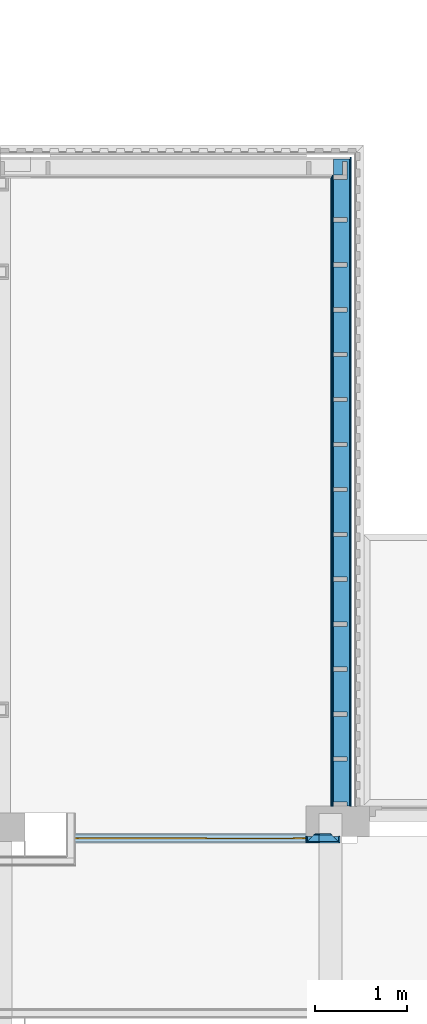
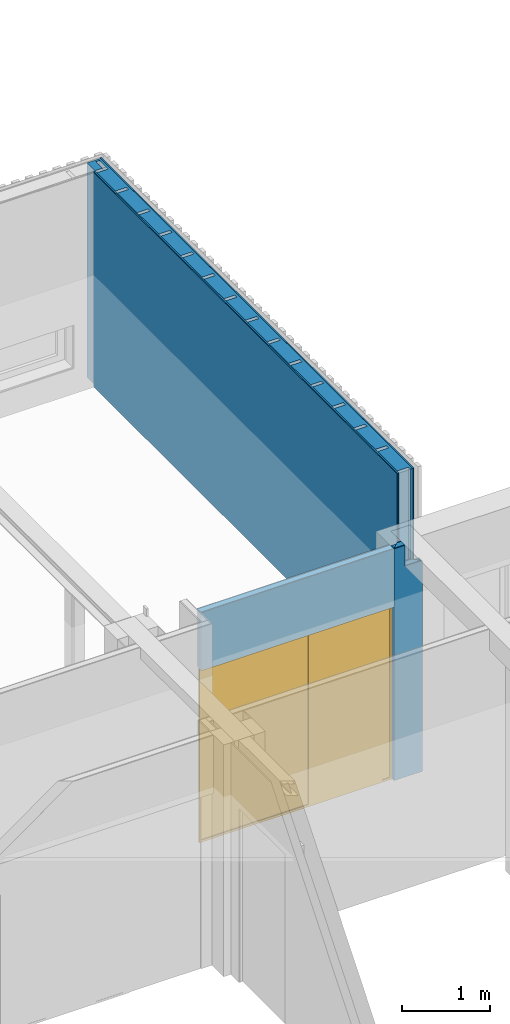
# One storey, part 70 of 99: 11 building element parts, 1 door, 1 opening, 5 elements without a shape of their own, plus 3 elements that do not belong to this part.
"""IFC2X3 building model written with IfcOpenShell, lengths in millimetres."""

from ifc_helpers import new_model, entity, si_unit, converted_unit, derived_unit, money_unit, direction, frame, origin_with_axes, place, context, subcontext, project, spatial, open_shell, faceted_brep, surface_model, material, type_object, element, fill, aggregate, save


model = new_model("IFC2X3")

# Units and contexts
model_context = context("Model", 3, precision=0.01, world=origin_with_axes(), true_north=direction((0.0, 1.0)))
body_context = subcontext(model_context, "Body", "Model", "MODEL_VIEW")
ifc_project = project(units=[si_unit("LENGTHUNIT", "METRE", prefix="MILLI"), si_unit("AREAUNIT", "SQUARE_METRE"), si_unit("VOLUMEUNIT", "CUBIC_METRE"), converted_unit("PLANEANGLEUNIT", "DEGREE", entity("IfcPlaneAngleMeasure", 0.0174532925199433), si_unit("PLANEANGLEUNIT", "RADIAN"), dimensions=[0, 0, 0, 0, 0, 0, 0]), money_unit("EUR"), converted_unit("TIMEUNIT", "Year", entity("IfcTimeMeasure", 31557600.0), si_unit("TIMEUNIT", "SECOND"), dimensions=[0, 0, 1, 0, 0, 0, 0]), si_unit("MASSUNIT", "GRAM", prefix="KILO"), si_unit("THERMODYNAMICTEMPERATUREUNIT", "DEGREE_CELSIUS"), si_unit("LUMINOUSINTENSITYUNIT", "LUMEN"), si_unit("ENERGYUNIT", "JOULE", prefix="MEGA"), derived_unit("THERMALCONDUCTANCEUNIT", [(si_unit("POWERUNIT", "WATT"), 1), (si_unit("LENGTHUNIT", "METRE"), -1), (si_unit("THERMODYNAMICTEMPERATUREUNIT", "KELVIN"), -1)]), derived_unit("SPECIFICHEATCAPACITYUNIT", [(si_unit("ENERGYUNIT", "JOULE"), 1), (si_unit("MASSUNIT", "GRAM", prefix="KILO"), -1), (si_unit("THERMODYNAMICTEMPERATUREUNIT", "KELVIN"), -1)]), derived_unit("MASSDENSITYUNIT", [(si_unit("MASSUNIT", "GRAM", prefix="KILO"), 1), (si_unit("VOLUMEUNIT", "CUBIC_METRE"), -1)])], contexts=[model_context])

# Site, building, storey
site_placement = place(None, origin_with_axes())
site = spatial("IfcSite", under=ifc_project, at=site_placement, Name="Site", CompositionType="ELEMENT")
building_placement = place(site_placement, origin_with_axes())
building = spatial("IfcBuilding", under=site, at=building_placement, Name="Naam gebouw", CompositionType="ELEMENT")
storey_placement = place(building_placement, frame((0.0, 0.0, 7650.0), z_axis=(0.0, 0.0, 1.0), x_axis=(1.0, 0.0, 0.0)))
storey = spatial("IfcBuildingStorey", under=building, at=storey_placement, Name="2e verdieping N", CompositionType="ELEMENT", Elevation=7650.0)

# Door
door_style = type_object("IfcDoorStyle", Name="D1 zl2 27", ConstructionType="NOTDEFINED", OperationType="USERDEFINED", ParameterTakesPrecedence=False, Sizeable=False)
wall_2_placement = place(storey_placement, frame((51215.00000000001, 20305.91242510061, 0.0), z_axis=(0.0, 0.0, 1.0), x_axis=(1.0, 0.0, 0.0)))
opening_placement = place(wall_2_placement, frame((1257.499999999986, 0.0, 0.0), z_axis=(0.0, 0.0, 1.0), x_axis=(1.0, 0.0, 0.0)))
door_placement = place(opening_placement, frame((-1257.499999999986, 0.0, 0.0), z_axis=(0.0, 0.0, 1.0), x_axis=(1.0, 0.0, 0.0)))
door = element("IfcDoor", 1, at=door_placement, inside=storey, type_object=door_style, Name="_Merk-x", ObjectType="DOOR", OverallHeight=2400.0, OverallWidth=2515.0, context=body_context, shape_type="SurfaceModel", body=[
    faceted_brep([(0.0, 9.99999999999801, 0.0), (30.00000000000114, 9.99999999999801, 0.0), (30.00000000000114, -10.00000000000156, 0.0), (0.0, -10.00000000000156, 0.0), (0.0, 9.99999999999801, 2369.999999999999), (30.00000000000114, 9.99999999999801, 2369.999999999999), (30.00000000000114, 9.99999999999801, 30.00000000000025), (30.00000000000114, -10.00000000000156, 30.00000000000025), (30.00000000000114, -10.00000000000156, 2369.999999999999), (0.0, -10.00000000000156, 2369.999999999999)], [[[0, 1, 2, 3]], [[0, 4, 5, 6, 1]], [[1, 6, 7, 2]], [[3, 2, 7, 8, 9]], [[4, 0, 3, 9]], [[5, 4, 9, 8]], [[6, 5, 8, 7]]]),
    faceted_brep([(1454.99999999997, -9.000000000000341, 0.0), (1454.99999999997, -9.000000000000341, 2369.999999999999), (1454.99999999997, -10.00000000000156, 2369.999999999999), (1454.99999999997, -10.00000000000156, 0.0), (1437.999999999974, -9.000000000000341, 2369.999999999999), (1437.999999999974, -9.000000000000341, 0.0), (1437.999999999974, 9.99999999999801, 2369.999999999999), (1424.999999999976, 9.99999999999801, 2369.999999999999), (1424.999999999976, -10.00000000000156, 2369.999999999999), (1424.999999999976, -10.00000000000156, 0.0), (1424.999999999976, -10.00000000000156, 30.00000000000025), (1424.999999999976, 9.99999999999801, 0.0), (1437.999999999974, 9.99999999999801, 0.0), (1424.999999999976, 9.99999999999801, 30.00000000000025)], [[[0, 1, 2, 3]], [[4, 1, 0, 5]], [[4, 6, 7, 8, 2, 1]], [[9, 3, 2, 8, 10]], [[5, 0, 3, 9, 11, 12]], [[6, 4, 5, 12]], [[6, 12, 11, 13, 7]], [[13, 10, 8, 7]], [[11, 9, 10, 13]]]),
    faceted_brep([(30.00000000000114, 9.99999999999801, 30.00000000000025), (30.00000000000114, 9.99999999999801, 0.0), (30.00000000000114, -10.00000000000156, 0.0), (30.00000000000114, -10.00000000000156, 30.00000000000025), (1424.999999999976, 9.99999999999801, 30.00000000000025), (1424.999999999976, 9.99999999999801, 0.0), (1424.999999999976, -10.00000000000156, 0.0), (1424.999999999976, -10.00000000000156, 30.00000000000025)], [[[0, 1, 2, 3]], [[0, 4, 5, 1]], [[1, 5, 6, 2]], [[3, 2, 6, 7]], [[4, 0, 3, 7]], [[5, 4, 7, 6]]]),
    faceted_brep([(2514.999999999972, 9.99999999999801, 0.0), (2514.999999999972, 9.99999999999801, 2369.999999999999), (2514.999999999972, -10.00000000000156, 2369.999999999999), (2514.999999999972, -10.00000000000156, 0.0), (2484.999999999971, 9.99999999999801, 0.0), (2484.999999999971, 9.99999999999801, 30.00000000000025), (2484.999999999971, 9.99999999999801, 2369.999999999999), (2484.999999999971, -10.00000000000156, 2369.999999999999), (2484.999999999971, -10.00000000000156, 30.00000000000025), (2484.999999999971, -10.00000000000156, 0.0)], [[[0, 1, 2, 3]], [[0, 4, 5, 6, 1]], [[1, 6, 7, 2]], [[3, 2, 7, 8, 9]], [[4, 0, 3, 9]], [[5, 4, 9, 8]], [[6, 5, 8, 7]]]),
    faceted_brep([(2371.999999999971, -9.000000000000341, 2369.999999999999), (2354.999999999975, -9.000000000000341, 2369.999999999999), (2354.999999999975, -10.00000000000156, 2369.999999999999), (2384.99999999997, -10.00000000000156, 2369.999999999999), (2384.99999999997, 9.99999999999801, 2369.999999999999), (2371.999999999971, 9.99999999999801, 2369.999999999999), (2371.999999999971, -9.000000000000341, 0.0), (2354.999999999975, -9.000000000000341, 0.0), (2354.999999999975, -10.00000000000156, 0.0), (2384.99999999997, -10.00000000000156, 0.0), (2384.99999999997, -10.00000000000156, 30.00000000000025), (2384.99999999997, 9.99999999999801, 30.00000000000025), (2371.999999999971, 9.99999999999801, 0.0), (2384.99999999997, 9.99999999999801, 0.0)], [[[0, 1, 2, 3, 4, 5]], [[1, 0, 6, 7]], [[1, 7, 8, 2]], [[8, 9, 10, 3, 2]], [[4, 3, 10, 11]], [[12, 5, 4, 11, 13]], [[0, 5, 12, 6]], [[6, 12, 13, 9, 8, 7]], [[11, 10, 9, 13]]]),
    faceted_brep([(2384.99999999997, 9.99999999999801, 30.00000000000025), (2384.99999999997, 9.99999999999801, 0.0), (2384.99999999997, -10.00000000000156, 0.0), (2384.99999999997, -10.00000000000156, 30.00000000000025), (2484.999999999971, 9.99999999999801, 30.00000000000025), (2484.999999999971, 9.99999999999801, 0.0), (2484.999999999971, -10.00000000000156, 0.0), (2484.999999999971, -10.00000000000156, 30.00000000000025)], [[[0, 1, 2, 3]], [[0, 4, 5, 1]], [[1, 5, 6, 2]], [[3, 2, 6, 7]], [[4, 0, 3, 7]], [[5, 4, 7, 6]]]),
    faceted_brep([(1437.999999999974, 9.99999999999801, 2387.0), (1437.999999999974, 9.99999999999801, 2369.999999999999), (1424.999999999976, 9.99999999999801, 2369.999999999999), (30.00000000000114, 9.99999999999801, 2369.999999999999), (0.0, 9.99999999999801, 2369.999999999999), (0.0, 9.99999999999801, 2400.0), (2514.999999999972, 9.99999999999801, 2400.0), (2514.999999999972, 9.99999999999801, 2369.999999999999), (2484.999999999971, 9.99999999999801, 2369.999999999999), (2384.99999999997, 9.99999999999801, 2369.999999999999), (2371.999999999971, 9.99999999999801, 2369.999999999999), (2371.999999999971, 9.99999999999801, 2387.0), (1437.999999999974, -9.000000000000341, 2387.0), (1437.999999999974, -9.000000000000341, 2369.999999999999), (2354.999999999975, -9.000000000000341, 2369.999999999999), (2354.999999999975, -10.00000000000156, 2369.999999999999), (1454.99999999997, -10.00000000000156, 2369.999999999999), (1424.999999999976, -10.00000000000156, 2369.999999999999), (30.00000000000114, -10.00000000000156, 2369.999999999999), (0.0, -10.00000000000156, 2369.999999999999), (0.0, -10.00000000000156, 2400.0), (2514.999999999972, -10.00000000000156, 2400.0), (2514.999999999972, -10.00000000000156, 2369.999999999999), (2484.999999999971, -10.00000000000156, 2369.999999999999), (2371.999999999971, -9.000000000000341, 2369.999999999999), (2384.99999999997, -10.00000000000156, 2369.999999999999), (2371.999999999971, -9.000000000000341, 2387.0)], [[[0, 1, 2, 3, 4, 5, 6, 7, 8, 9, 10, 11]], [[1, 0, 12, 13]], [[13, 14, 15, 16, 17, 2, 1]], [[2, 17, 18, 3]], [[3, 18, 19, 4]], [[4, 19, 20, 5]], [[5, 20, 21, 6]], [[6, 21, 22, 7]], [[7, 22, 23, 8]], [[24, 10, 9, 8, 23, 25, 15, 14]], [[11, 10, 24, 26]], [[0, 11, 26, 12]], [[24, 14, 13, 12, 26]], [[23, 22, 21, 20, 19, 18, 17, 16, 15, 25]]]),
    faceted_brep([(2371.999999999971, 0.9999999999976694, 0.0), (2371.999999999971, -9.000000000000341, 0.0), (1437.999999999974, -9.000000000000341, 0.0), (1437.999999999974, 0.9999999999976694, 0.0), (2371.999999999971, 0.9999999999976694, 2387.0), (2371.999999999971, -9.000000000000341, 2387.0), (1437.999999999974, -9.000000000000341, 2387.0), (1437.999999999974, 0.9999999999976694, 2387.0)], [[[0, 1, 2, 3]], [[4, 5, 1, 0]], [[1, 5, 6, 2]], [[3, 2, 6, 7]], [[0, 3, 7, 4]], [[7, 6, 5, 4]]]),
    surface_model("IfcShellBasedSurfaceModel", [(30.00000000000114, 8.999999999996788, 30.00000000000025), (30.00000000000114, 8.999999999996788, 2369.999999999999), (1424.999999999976, 8.999999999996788, 2369.999999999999), (1424.999999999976, 8.999999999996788, 30.00000000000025)], [open_shell([[[0, 1, 2, 3]]])]),
    surface_model("IfcShellBasedSurfaceModel", [(30.00000000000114, 0.9999999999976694, 30.00000000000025), (1424.999999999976, 0.9999999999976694, 30.00000000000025), (1424.999999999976, 0.9999999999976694, 2369.999999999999), (30.00000000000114, 0.9999999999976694, 2369.999999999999)], [open_shell([[[0, 1, 2, 3]]])]),
    surface_model("IfcShellBasedSurfaceModel", [(2384.99999999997, 8.999999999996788, 30.00000000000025), (2384.99999999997, 8.999999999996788, 2369.999999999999), (2484.999999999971, 8.999999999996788, 2369.999999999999), (2484.999999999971, 8.999999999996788, 30.00000000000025)], [open_shell([[[0, 1, 2, 3]]])]),
    surface_model("IfcShellBasedSurfaceModel", [(2384.99999999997, 0.9999999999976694, 30.00000000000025), (2484.999999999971, 0.9999999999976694, 30.00000000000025), (2484.999999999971, 0.9999999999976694, 2369.999999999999), (2384.99999999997, 0.9999999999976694, 2369.999999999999)], [open_shell([[[0, 1, 2, 3]]])]),
])

# Wall, building element parts
wall_type_1 = type_object("IfcWallType", Name="Metalstud iso 100 100", PredefinedType="NOTDEFINED")
wall_1_placement = place(storey_placement, frame((53729.99999999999, 20255.91242510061, 0.0), z_axis=(0.0, 0.0, 1.0), x_axis=(0.0, 1.0, 0.0)))
wall_1 = element("IfcWall", 2, at=wall_1_placement, inside=storey, type_object=wall_type_1, Name="_Wand-x")
ifc_material_1 = material(Name="Gipsplaat")
building_element_part_1_placement = place(wall_1_placement, origin_with_axes())
building_element_part_1 = element("IfcBuildingElementPart", 3, at=building_element_part_1_placement, material=ifc_material_1, Name="Gipsplaat", context=body_context, shape_type="Brep", body=[
    faceted_brep([(0.0, 0.0, 3199.999999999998), (69.99999999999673, 0.0, 3199.999999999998), (69.99999999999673, 0.0, 0.0), (0.0, 0.0, 0.0), (12.5000119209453, -12.50001192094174, 3199.999999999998), (69.99999999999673, -12.50000000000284, 3199.999999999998), (69.99999999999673, -12.50000000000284, 0.0), (12.5000119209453, -12.50001192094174, 0.0)], [[[0, 1, 2, 3]], [[1, 0, 4, 5]], [[1, 5, 6, 2]], [[7, 3, 2, 6]], [[4, 0, 3, 7]], [[5, 4, 7, 6]]]),
])
ifc_material_2 = material(Name="Isolatie - Steenwol LSW")
building_element_part_2_placement = place(wall_1_placement, origin_with_axes())
building_element_part_2 = element("IfcBuildingElementPart", 4, at=building_element_part_2_placement, material=ifc_material_2, Name="Isolatie - Steenwol LSW", context=body_context, shape_type="Brep", body=[
    faceted_brep([(12.5000119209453, -12.50001192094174, 3199.999999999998), (69.99999999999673, -69.99999999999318, 3199.999999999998), (69.99999999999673, -12.50000000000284, 3199.999999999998), (69.99999999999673, -69.99999999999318, 0.0), (12.5000119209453, -12.50001192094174, 0.0), (69.99999999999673, -12.50000000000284, 0.0)], [[[0, 1, 2]], [[3, 1, 0, 4]], [[1, 3, 5, 2]], [[4, 0, 2, 5]], [[3, 4, 5]]]),
])
aggregate(wall_1, [building_element_part_1, building_element_part_2])

# Wall, opening
wall_2 = element("IfcWall", 5, at=wall_2_placement, inside=storey, type_object=wall_type_1, Name="_Wand-x")
opening = element("IfcOpeningElement", 6, at=opening_placement, cuts=wall_2, Name="_Merk-x", context=body_context, shape_type="Brep", body=[
    faceted_brep([(1257.499999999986, -10.00000000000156, 0.0), (1257.499999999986, -10.00000000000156, 2400.0), (1257.499999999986, -51.00000000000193, 2400.0), (1257.499999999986, -51.00000000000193, 0.0), (1257.499999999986, 51.00000000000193, 0.0), (1257.499999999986, 51.00000000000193, 2400.0), (-1257.499999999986, -10.00000000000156, 2400.0), (-1257.499999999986, -51.00000000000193, 2400.0), (-1257.499999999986, 51.00000000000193, 2400.0), (-1257.499999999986, -51.00000000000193, 0.0), (-1257.499999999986, -10.00000000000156, 0.0), (-1257.499999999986, 51.00000000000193, 0.0)], [[[0, 1, 2, 3]], [[1, 0, 4, 5]], [[6, 7, 2, 1, 5, 8]], [[7, 9, 3, 2]], [[0, 3, 9, 10, 11, 4]], [[5, 4, 11, 8]], [[6, 10, 9, 7]], [[10, 6, 8, 11]]]),
])

fill(opening, door)

# Building element part
building_element_part_3_placement = place(wall_2_placement, origin_with_axes())
building_element_part_3 = element("IfcBuildingElementPart", 7, at=building_element_part_3_placement, material=ifc_material_1, Name="Gipsplaat", context=body_context, shape_type="Brep", body=[
    faceted_brep([(2514.999999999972, 37.50000000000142, 2400.0), (2514.999999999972, 50.00000000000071, 2400.0), (2514.999999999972, 50.00000000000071, 3199.999999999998), (2514.999999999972, 37.50000000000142, 3199.999999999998), (0.0, 50.00000000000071, 2400.0), (0.0, 37.50000000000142, 2400.0), (0.0, 50.00000000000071, 3199.999999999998), (0.0, 37.50000000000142, 3199.999999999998)], [[[0, 1, 2, 3]], [[4, 1, 0, 5]], [[1, 4, 6, 2]], [[6, 7, 3, 2]], [[5, 0, 3, 7]], [[4, 5, 7, 6]]]),
])

building_element_part_4_placement = place(wall_2_placement, origin_with_axes())
building_element_part_4 = element("IfcBuildingElementPart", 8, at=building_element_part_4_placement, material=ifc_material_1, Name="Gipsplaat", context=body_context, shape_type="Brep", body=[
    faceted_brep([(2514.999999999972, -50.00000000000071, 2400.0), (2514.999999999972, -37.49999999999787, 2400.0), (2514.999999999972, -37.49999999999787, 3199.999999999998), (2514.999999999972, -50.00000000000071, 3199.999999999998), (0.0, -37.50000000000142, 2400.0), (0.0, -50.00000000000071, 2400.0), (0.0, -37.50000000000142, 3199.999999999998), (0.0, -50.00000000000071, 3199.999999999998)], [[[0, 1, 2, 3]], [[4, 1, 0, 5]], [[1, 4, 6, 2]], [[6, 7, 3, 2]], [[5, 0, 3, 7]], [[4, 5, 7, 6]]]),
])

building_element_part_5_placement = place(wall_2_placement, origin_with_axes())
building_element_part_5 = element("IfcBuildingElementPart", 9, at=building_element_part_5_placement, material=ifc_material_2, Name="Isolatie - Steenwol LSW", context=body_context, shape_type="Brep", body=[
    faceted_brep([(2514.999999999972, -10.00000000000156, 2400.0), (2514.999999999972, 37.50000000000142, 2400.0), (2514.999999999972, 37.50000000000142, 3199.999999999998), (2514.999999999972, -37.49999999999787, 3199.999999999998), (2514.999999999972, -37.49999999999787, 2400.0), (0.0, -10.00000000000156, 2400.0), (0.0, 37.50000000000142, 2400.0), (0.0, -37.50000000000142, 2400.0), (0.0, 37.50000000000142, 3199.999999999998), (0.0, -37.50000000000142, 3199.999999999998)], [[[0, 1, 2, 3, 4]], [[5, 6, 1, 0, 4, 7]], [[1, 6, 8, 2]], [[9, 3, 2, 8]], [[4, 3, 9, 7]], [[6, 5, 7, 9, 8]]]),
])

aggregate(wall_2, [building_element_part_3, building_element_part_4, building_element_part_5])

# Wall, building element parts
wall_3_placement = place(storey_placement, frame((53729.99999999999, 20255.91242510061, 0.0), z_axis=(0.0, 0.0, 1.0), x_axis=(1.0, 0.0, 0.0)))
wall_3 = element("IfcWall", 10, at=wall_3_placement, inside=storey, type_object=wall_type_1, Name="_Wand-x")
building_element_part_6_placement = place(wall_3_placement, origin_with_axes())
building_element_part_6 = element("IfcBuildingElementPart", 11, at=building_element_part_6_placement, material=ifc_material_2, Name="Isolatie - Steenwol LSW", context=body_context, shape_type="Brep", body=[
    faceted_brep([(282.5000119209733, 87.49998807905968, 2909.997805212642), (357.4999880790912, 12.50001192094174, 2909.997805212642), (357.4999880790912, 12.50001192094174, 0.0), (282.5000119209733, 87.49998807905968, 0.0), (145.0000000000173, 12.50001192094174, 2909.997805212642), (145.0000000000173, 87.49998807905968, 2909.997805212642), (145.0000000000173, 12.50001192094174, 3199.999999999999), (12.50001192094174, 12.50001192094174, 3199.999999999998), (12.50001192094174, 12.50001192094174, 0.0), (87.49998807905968, 87.49998807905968, 0.0), (87.49998807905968, 87.49998807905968, 3199.999999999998), (145.0000000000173, 87.49998807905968, 3199.999999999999)], [[[0, 1, 2, 3]], [[4, 1, 0, 5]], [[4, 6, 7, 8, 2, 1]], [[2, 8, 9, 3]], [[5, 0, 3, 9, 10, 11]], [[5, 11, 6, 4]], [[6, 11, 10, 7]], [[8, 7, 10, 9]]]),
])
building_element_part_7_placement = place(wall_3_placement, origin_with_axes())
building_element_part_7 = element("IfcBuildingElementPart", 12, at=building_element_part_7_placement, material=ifc_material_1, Name="Gipsplaat", context=body_context, shape_type="Brep", body=[
    faceted_brep([(357.4999880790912, 12.50001192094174, 2909.997805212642), (370.0000000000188, 0.0, 2909.997805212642), (370.0000000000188, 0.0, 0.0), (357.4999880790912, 12.50001192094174, 0.0), (145.0000000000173, 0.0, 2909.997805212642), (145.0000000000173, 12.50001192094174, 2909.997805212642), (145.0000000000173, 0.0, 3199.999999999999), (0.0, 0.0, 3199.999999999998), (0.0, 0.0, 0.0), (12.50001192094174, 12.50001192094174, 0.0), (12.50001192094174, 12.50001192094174, 3199.999999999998), (145.0000000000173, 12.50001192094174, 3199.999999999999)], [[[0, 1, 2, 3]], [[4, 1, 0, 5]], [[4, 6, 7, 8, 2, 1]], [[8, 9, 3, 2]], [[5, 0, 3, 9, 10, 11]], [[5, 11, 6, 4]], [[6, 11, 10, 7]], [[8, 7, 10, 9]]]),
])
building_element_part_8_placement = place(wall_3_placement, origin_with_axes())
building_element_part_8 = element("IfcBuildingElementPart", 13, at=building_element_part_8_placement, material=ifc_material_1, Name="Gipsplaat", context=body_context, shape_type="Brep", body=[
    faceted_brep([(270.0000000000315, 100.0000000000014, 2909.997805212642), (282.5000119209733, 87.49998807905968, 2909.997805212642), (282.5000119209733, 87.49998807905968, 0.0), (270.0000000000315, 100.0000000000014, 0.0), (145.0000000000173, 87.49998807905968, 2909.997805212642), (145.0000000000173, 100.0000000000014, 2909.997805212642), (145.0000000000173, 87.49998807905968, 3199.999999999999), (87.49998807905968, 87.49998807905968, 3199.999999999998), (87.49998807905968, 87.49998807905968, 0.0), (100.0000000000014, 100.0000000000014, 0.0), (100.0000000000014, 100.0000000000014, 3199.999999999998), (145.0000000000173, 100.0000000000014, 3199.999999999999)], [[[0, 1, 2, 3]], [[4, 1, 0, 5]], [[4, 6, 7, 8, 2, 1]], [[2, 8, 9, 3]], [[5, 0, 3, 9, 10, 11]], [[5, 11, 6, 4]], [[6, 11, 10, 7]], [[8, 7, 10, 9]]]),
])
aggregate(wall_3, [building_element_part_6, building_element_part_7, building_element_part_8])

wall_4_placement = place(storey_placement, frame((54100.0, 20255.91242510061, 0.0), z_axis=(0.0, 0.0, 1.0), x_axis=(0.0, 1.0, 0.0)))
wall_4 = element("IfcWall", 14, at=wall_4_placement, inside=storey, type_object=wall_type_1, Name="_Wand-x")
building_element_part_9_placement = place(wall_4_placement, origin_with_axes())
building_element_part_9 = element("IfcBuildingElementPart", 15, at=building_element_part_9_placement, material=ifc_material_2, Name="Isolatie - Steenwol LSW", context=body_context, shape_type="Brep", body=[
    faceted_brep([(69.99999999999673, 69.99999999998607, 2909.997805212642), (69.99999999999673, 12.50000000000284, 2909.997805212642), (69.99999999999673, 12.50000000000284, 0.0), (70.00000000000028, 69.99999999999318, 0.0), (12.50001192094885, 12.50001192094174, 2909.997805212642), (12.50001192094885, 12.50001192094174, 0.0)], [[[0, 1, 2, 3]], [[4, 1, 0]], [[1, 4, 5, 2]], [[2, 5, 3]], [[4, 0, 3, 5]]]),
])
building_element_part_10_placement = place(wall_4_placement, origin_with_axes())
building_element_part_10 = element("IfcBuildingElementPart", 16, at=building_element_part_10_placement, material=ifc_material_1, Name="Gipsplaat", context=body_context, shape_type="Brep", body=[
    faceted_brep([(69.99999999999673, 12.50000000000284, 2909.997805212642), (69.99999999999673, 0.0, 2909.997805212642), (69.99999999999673, 0.0, 0.0), (69.99999999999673, 12.50000000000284, 0.0), (0.0, 0.0, 2909.997805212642), (12.50001192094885, 12.50001192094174, 2909.997805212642), (0.0, 0.0, 0.0), (12.50001192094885, 12.50001192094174, 0.0)], [[[0, 1, 2, 3]], [[4, 1, 0, 5]], [[1, 4, 6, 2]], [[6, 7, 3, 2]], [[5, 0, 3, 7]], [[4, 5, 7, 6]]]),
])
aggregate(wall_4, [building_element_part_9, building_element_part_10])

wall_type_2 = type_object("IfcWallType", Name="Gevel decowall-hsb 278", PredefinedType="NOTDEFINED")
wall_5_placement = place(storey_placement, frame((53999.99999999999, 20656.0124251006, 939.9999999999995), z_axis=(0.0, 0.0, 1.0), x_axis=(0.0, 1.0, 0.0)))
wall_5 = element("IfcWall", 17, at=wall_5_placement, inside=storey, type_object=wall_type_2, Name="_Wand-x")
building_element_part_11_placement = place(wall_5_placement, origin_with_axes())
building_element_part_11 = element("IfcBuildingElementPart", 18, at=building_element_part_11_placement, material=ifc_material_1, Name="Gipsplaat", context=body_context, shape_type="Brep", body=[
    faceted_brep([(0.0, 0.0, 0.0), (6861.899999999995, 0.0, 0.0), (6861.899999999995, -11.99999999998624, 0.0), (0.0, -12.00000000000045, 0.0), (0.0, 0.0, 2960.000000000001), (6861.899999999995, 0.0, 2960.000000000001), (6861.899999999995, -11.99999999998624, 2960.000000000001), (0.0, -12.00000000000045, 2960.000000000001)], [[[0, 1, 2, 3]], [[4, 5, 1, 0]], [[6, 2, 1, 5]], [[3, 2, 6, 7]], [[7, 4, 0, 3]], [[7, 6, 5, 4]]]),
])
ifc_material_3 = material(Name="Hout - Multiplex")
building_element_part_12_placement = place(wall_5_placement, origin_with_axes())
building_element_part_12 = element("IfcBuildingElementPart", 19, at=building_element_part_12_placement, material=ifc_material_3, Name="Hout - Multiplex", context=body_context, shape_type="Brep", body=[
    faceted_brep([(0.0, -12.00000000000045, 0.0), (6879.899999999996, -11.99999999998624, 0.0), (6879.899999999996, -29.99999999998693, 0.0), (0.0, -30.00000000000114, 0.0), (0.0, -12.00000000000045, 2960.000000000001), (6879.899999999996, -11.99999999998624, 2960.000000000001), (6879.899999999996, -29.99999999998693, 2960.000000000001), (0.0, -30.00000000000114, 2960.000000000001)], [[[0, 1, 2, 3]], [[4, 5, 1, 0]], [[6, 2, 1, 5]], [[3, 2, 6, 7]], [[7, 4, 0, 3]], [[7, 6, 5, 4]]]),
])
ifc_material_4 = material(Name="Isolatie - Steenwol zacht")
building_element_part_13_placement = place(wall_5_placement, origin_with_axes())
building_element_part_13 = element("IfcBuildingElementPart", 20, at=building_element_part_13_placement, material=ifc_material_4, Name="Isolatie - Steenwol zacht", context=body_context, shape_type="Brep", body=[
    faceted_brep([(6879.9, -129.9999999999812, 2960.000000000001), (7025.9, -129.9999999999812, 2960.000000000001), (7025.9, -175.9999999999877, 2960.000000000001), (6833.9, -175.9999999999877, 2960.000000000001), (6833.9, -29.99999999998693, 2960.000000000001), (6416.0, -29.99999999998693, 2960.000000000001), (6416.0, -175.9999999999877, 2960.000000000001), (6370.000000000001, -175.9999999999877, 2960.000000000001), (6370.000000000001, -29.99999999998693, 2960.000000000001), (5925.999999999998, -29.99999999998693, 2960.000000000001), (5925.999999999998, -175.9999999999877, 2960.000000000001), (5879.999999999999, -175.9999999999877, 2960.000000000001), (5879.999999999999, -29.99999999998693, 2960.000000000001), (5436.0, -29.99999999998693, 2960.000000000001), (5436.0, -175.9999999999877, 2960.000000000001), (5390.000000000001, -175.9999999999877, 2960.000000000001), (5390.000000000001, -29.99999999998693, 2960.000000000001), (4946.000000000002, -29.99999999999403, 2960.000000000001), (4946.000000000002, -175.9999999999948, 2960.000000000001), (4900.000000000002, -175.9999999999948, 2960.000000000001), (4900.000000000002, -29.99999999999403, 2960.000000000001), (4455.999999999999, -29.99999999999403, 2960.000000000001), (4455.999999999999, -175.9999999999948, 2960.000000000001), (4410.0, -175.9999999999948, 2960.000000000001), (4410.0, -29.99999999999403, 2960.000000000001), (3965.999999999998, -29.99999999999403, 2960.000000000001), (3965.999999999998, -175.9999999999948, 2960.000000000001), (3919.999999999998, -175.9999999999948, 2960.000000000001), (3919.999999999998, -29.99999999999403, 2960.000000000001), (3475.999999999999, -29.99999999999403, 2960.000000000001), (3475.999999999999, -175.9999999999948, 2960.000000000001), (3430.0, -175.9999999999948, 2960.000000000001), (3430.0, -29.99999999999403, 2960.000000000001), (2986.0, -29.99999999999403, 2960.000000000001), (2986.0, -175.9999999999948, 2960.000000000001), (2940.000000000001, -175.9999999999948, 2960.000000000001), (2940.000000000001, -29.99999999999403, 2960.000000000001), (2495.999999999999, -29.99999999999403, 2960.000000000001), (2495.999999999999, -175.9999999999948, 2960.000000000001), (2449.999999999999, -175.9999999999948, 2960.000000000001), (2449.999999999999, -29.99999999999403, 2960.000000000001), (2006.0, -29.99999999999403, 2960.000000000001), (2006.0, -175.9999999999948, 2960.000000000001), (1960.000000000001, -175.9999999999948, 2960.000000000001), (1960.000000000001, -29.99999999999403, 2960.000000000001), (1515.999999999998, -30.00000000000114, 2960.000000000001), (1515.999999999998, -176.0000000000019, 2960.000000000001), (1469.999999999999, -176.0000000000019, 2960.000000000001), (1469.999999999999, -30.00000000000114, 2960.000000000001), (1026.0, -30.00000000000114, 2960.000000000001), (1026.0, -176.0000000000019, 2960.000000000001), (980.0000000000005, -176.0000000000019, 2960.000000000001), (980.0000000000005, -30.00000000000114, 2960.000000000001), (535.9999999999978, -30.00000000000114, 2960.000000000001), (535.9999999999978, -176.0000000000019, 2960.000000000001), (489.9999999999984, -176.0000000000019, 2960.000000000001), (489.9999999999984, -30.00000000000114, 2960.000000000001), (45.99999999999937, -30.00000000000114, 2960.000000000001), (45.99999999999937, -176.0000000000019, 2960.000000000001), (0.0, -176.0000000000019, 2960.000000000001), (0.0, -207.9999999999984, 2960.000000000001), (7057.899999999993, -207.9999999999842, 2960.000000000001), (7057.899999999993, -29.99999999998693, 2960.000000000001), (6879.9, -29.99999999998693, 2960.000000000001), (6879.9, -129.9999999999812, 0.0), (7025.9, -129.9999999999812, 0.0), (7025.9, -175.9999999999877, 0.0), (6833.9, -175.9999999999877, 0.0), (6833.9, -29.99999999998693, 0.0), (6416.0, -29.99999999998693, 0.0), (6416.0, -175.9999999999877, 0.0), (6370.000000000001, -175.9999999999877, 0.0), (6370.000000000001, -29.99999999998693, 0.0), (5925.999999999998, -29.99999999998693, 0.0), (5925.999999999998, -175.9999999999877, 0.0), (5879.999999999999, -175.9999999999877, 0.0), (5879.999999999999, -29.99999999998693, 0.0), (5436.0, -29.99999999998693, 0.0), (5436.0, -175.9999999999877, 0.0), (5390.000000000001, -175.9999999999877, 0.0), (5390.000000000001, -29.99999999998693, 0.0), (4946.000000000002, -29.99999999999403, 0.0), (4946.000000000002, -175.9999999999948, 0.0), (4900.000000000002, -175.9999999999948, 0.0), (4900.000000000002, -29.99999999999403, 0.0), (4455.999999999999, -29.99999999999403, 0.0), (4455.999999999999, -175.9999999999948, 0.0), (4410.0, -175.9999999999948, 0.0), (4410.0, -29.99999999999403, 0.0), (3965.999999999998, -29.99999999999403, 0.0), (3965.999999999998, -175.9999999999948, 0.0), (3919.999999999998, -175.9999999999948, 0.0), (3919.999999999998, -29.99999999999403, 0.0), (3475.999999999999, -29.99999999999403, 0.0), (3475.999999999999, -175.9999999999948, 0.0), (3430.0, -175.9999999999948, 0.0), (3430.0, -29.99999999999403, 0.0), (2986.0, -29.99999999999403, 0.0), (2986.0, -175.9999999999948, 0.0), (2940.000000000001, -175.9999999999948, 0.0), (2940.000000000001, -29.99999999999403, 0.0), (2495.999999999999, -29.99999999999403, 0.0), (2495.999999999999, -175.9999999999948, 0.0), (2449.999999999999, -175.9999999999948, 0.0), (2449.999999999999, -29.99999999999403, 0.0), (2006.0, -29.99999999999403, 0.0), (2006.0, -175.9999999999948, 0.0), (1960.000000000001, -175.9999999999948, 0.0), (1960.000000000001, -29.99999999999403, 0.0), (1515.999999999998, -30.00000000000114, 0.0), (1515.999999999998, -176.0000000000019, 0.0), (1469.999999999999, -176.0000000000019, 0.0), (1469.999999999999, -30.00000000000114, 0.0), (1026.0, -30.00000000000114, 0.0), (1026.0, -176.0000000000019, 0.0), (980.0000000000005, -176.0000000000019, 0.0), (980.0000000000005, -30.00000000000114, 0.0), (535.9999999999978, -30.00000000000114, 0.0), (535.9999999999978, -176.0000000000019, 0.0), (489.9999999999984, -176.0000000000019, 0.0), (489.9999999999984, -30.00000000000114, 0.0), (45.99999999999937, -30.00000000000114, 0.0), (45.99999999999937, -176.0000000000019, 0.0), (0.0, -176.0000000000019, 0.0), (0.0, -207.9999999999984, 0.0), (7057.899999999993, -207.9999999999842, 0.0), (7057.899999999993, -29.99999999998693, 0.0), (6879.9, -29.99999999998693, 0.0)], [[[0, 1, 2, 3, 4, 5, 6, 7, 8, 9, 10, 11, 12, 13, 14, 15, 16, 17, 18, 19, 20, 21, 22, 23, 24, 25, 26, 27, 28, 29, 30, 31, 32, 33, 34, 35, 36, 37, 38, 39, 40, 41, 42, 43, 44, 45, 46, 47, 48, 49, 50, 51, 52, 53, 54, 55, 56, 57, 58, 59, 60, 61, 62, 63]], [[1, 0, 64, 65]], [[2, 1, 65, 66]], [[2, 66, 67, 3]], [[4, 3, 67, 68]], [[69, 5, 4, 68]], [[6, 5, 69, 70]], [[7, 6, 70, 71]], [[8, 7, 71, 72]], [[73, 9, 8, 72]], [[10, 9, 73, 74]], [[11, 10, 74, 75]], [[12, 11, 75, 76]], [[77, 13, 12, 76]], [[14, 13, 77, 78]], [[15, 14, 78, 79]], [[16, 15, 79, 80]], [[81, 17, 16, 80]], [[18, 17, 81, 82]], [[19, 18, 82, 83]], [[20, 19, 83, 84]], [[85, 21, 20, 84]], [[22, 21, 85, 86]], [[23, 22, 86, 87]], [[24, 23, 87, 88]], [[89, 25, 24, 88]], [[26, 25, 89, 90]], [[27, 26, 90, 91]], [[28, 27, 91, 92]], [[93, 29, 28, 92]], [[30, 29, 93, 94]], [[31, 30, 94, 95]], [[32, 31, 95, 96]], [[97, 33, 32, 96]], [[34, 33, 97, 98]], [[35, 34, 98, 99]], [[36, 35, 99, 100]], [[101, 37, 36, 100]], [[38, 37, 101, 102]], [[39, 38, 102, 103]], [[40, 39, 103, 104]], [[105, 41, 40, 104]], [[42, 41, 105, 106]], [[43, 42, 106, 107]], [[44, 43, 107, 108]], [[109, 45, 44, 108]], [[46, 45, 109, 110]], [[47, 46, 110, 111]], [[48, 47, 111, 112]], [[113, 49, 48, 112]], [[50, 49, 113, 114]], [[51, 50, 114, 115]], [[52, 51, 115, 116]], [[117, 53, 52, 116]], [[54, 53, 117, 118]], [[55, 54, 118, 119]], [[56, 55, 119, 120]], [[121, 57, 56, 120]], [[58, 57, 121, 122]], [[59, 58, 122, 123]], [[59, 123, 124, 60]], [[124, 125, 61, 60]], [[61, 125, 126, 62]], [[127, 63, 62, 126]], [[64, 0, 63, 127]], [[65, 64, 127, 126, 125, 124, 123, 122, 121, 120, 119, 118, 117, 116, 115, 114, 113, 112, 111, 110, 109, 108, 107, 106, 105, 104, 103, 102, 101, 100, 99, 98, 97, 96, 95, 94, 93, 92, 91, 90, 89, 88, 87, 86, 85, 84, 83, 82, 81, 80, 79, 78, 77, 76, 75, 74, 73, 72, 71, 70, 69, 68, 67, 66]]]),
])
building_element_part_14_placement = place(wall_5_placement, origin_with_axes())
building_element_part_14 = element("IfcBuildingElementPart", 21, at=building_element_part_14_placement, material=ifc_material_3, Name="Hout - Multiplex", context=body_context, shape_type="Brep", body=[
    faceted_brep([(0.0, -207.9999999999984, 0.0), (7075.899999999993, -207.9999999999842, 0.0), (7075.899999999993, -225.9999999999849, 0.0), (0.0, -225.9999999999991, 0.0), (0.0, -207.9999999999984, 2960.000000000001), (7075.899999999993, -207.9999999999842, 2960.000000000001), (7075.899999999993, -225.9999999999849, 2960.000000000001), (0.0, -225.9999999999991, 2960.000000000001)], [[[0, 1, 2, 3]], [[4, 5, 1, 0]], [[6, 2, 1, 5]], [[3, 2, 6, 7]], [[7, 4, 0, 3]], [[7, 6, 5, 4]]]),
])
aggregate(wall_5, [building_element_part_11, building_element_part_12, building_element_part_13, building_element_part_14])

save(model, "model.ifc")
